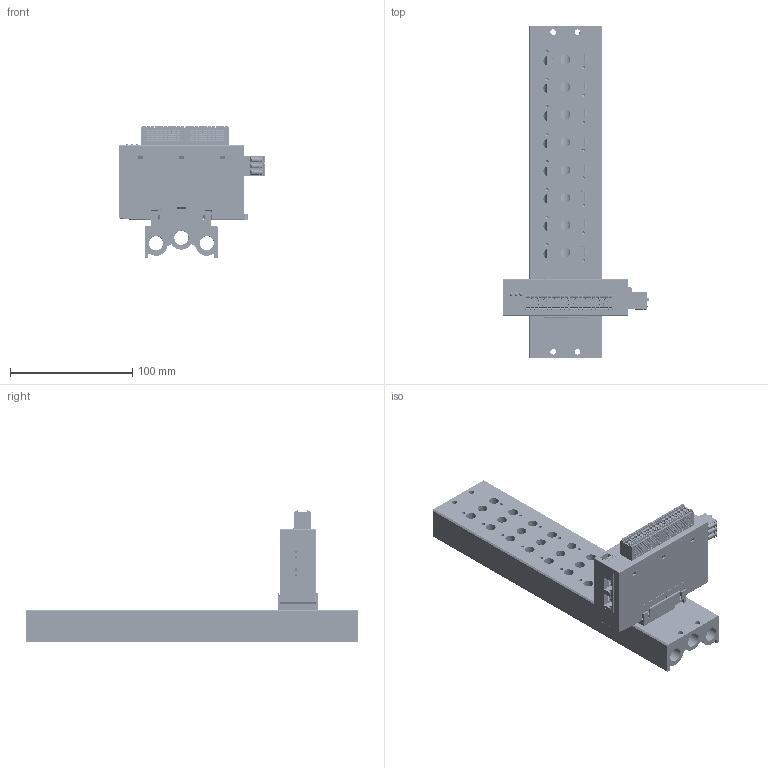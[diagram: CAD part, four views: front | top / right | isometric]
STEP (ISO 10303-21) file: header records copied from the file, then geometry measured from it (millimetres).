
FILE_DESCRIPTION(/* description */ (''),/* implementation_level */ '2;1');
FILE_NAME(/* name */ '',/* time_stamp */ '2025-10-09T16:29:11+08:00',/* author */ (''),/* organization */ (''),/* preprocessor_version */ 'ST-DEVELOPER v14',/* originating_system */ 'SIEMENS PLM Software NX 8.0',/* authorisation */ '');
FILE_SCHEMA (('AP203_CONFIGURATION_CONTROLLED_3D_DESIGN_OF_MECHANICAL_PARTS_AND_ASSEMBLIES_MIM_LF { 1 0 10303 403 2 1 2}'));
Products named in the file (1): DELL3E5857E9ucw6
Bounding box: 119.8 x 271 x 108.48 mm (x, y, z)
Volume: 443637 mm3; surface area: 145474.3 mm2
Topology: 2 solids, 227 shells, 9735 faces, 25768 edges, 16774 vertices
Faces by surface type: plane 6389, cylinder 2275, torus 336, bspline 331, cone 221, sphere 95, extrusion 88
Full cylindrical faces by diameter (mm): 0.18 x2, 2.5 x21, 3.05 x40, 3.3 x3, 3.5 x4, 4 x3, 4.5 x4, 6 x4, 8 x24, 11.5 x5, 11.8 x6
Entity records: 320781 total; most frequent: CARTESIAN_POINT 80990, ORIENTED_EDGE 50478, DIRECTION 48006, EDGE_CURVE 25239, VECTOR 18054, LINE 17966, VERTEX_POINT 16641, AXIS2_PLACEMENT_3D 14976
